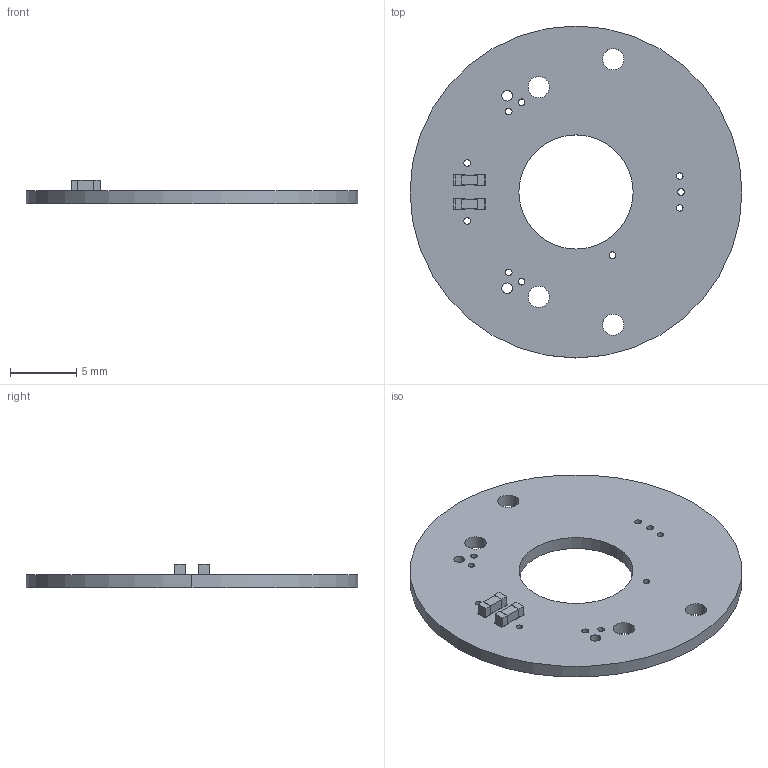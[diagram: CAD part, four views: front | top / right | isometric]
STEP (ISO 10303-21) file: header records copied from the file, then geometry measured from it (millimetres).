
FILE_DESCRIPTION (( 'STEP AP214' ), '1' );
FILE_NAME ('033_2015_0001_(25mm_B3_Target_3D).STEP', '2023-09-21T14:03:13', ( '' ), ( '' ), 'SwSTEP 2.0', 'SolidWorks 2020', '' );
FILE_SCHEMA (( 'AUTOMOTIVE_DESIGN' ));
Length unit declared in the file: millimetre
Products named in the file (3): 013-1037_0001_Cmodel; 010-2002_0001_(25mm_B3_Rotary_Target_PCB); 033_2015_0001_(25mm_B3_Target_3D)
Assembly tree (3 placements, depth 2):
  033_2015_0001_(25mm_B3_Target_3D)
    010-2002_0001_(25mm_B3_Rotary_Target_PCB)
    013-1037_0001_Cmodel  x2
Bounding box: 25 x 25 x 1.8 mm (x, y, z)
Volume: 424.5 mm3; surface area: 1006.8 mm2
Topology: 3 solids, 3 shells, 90 faces, 228 edges, 152 vertices
Faces by surface type: plane 54, cylinder 36
Entity records: 3244 total; most frequent: DIRECTION 424, CARTESIAN_POINT 400, ORIENTED_EDGE 384, EDGE_CURVE 192, AXIS2_PLACEMENT_3D 152, VERTEX_POINT 128, LINE 120, VECTOR 120
